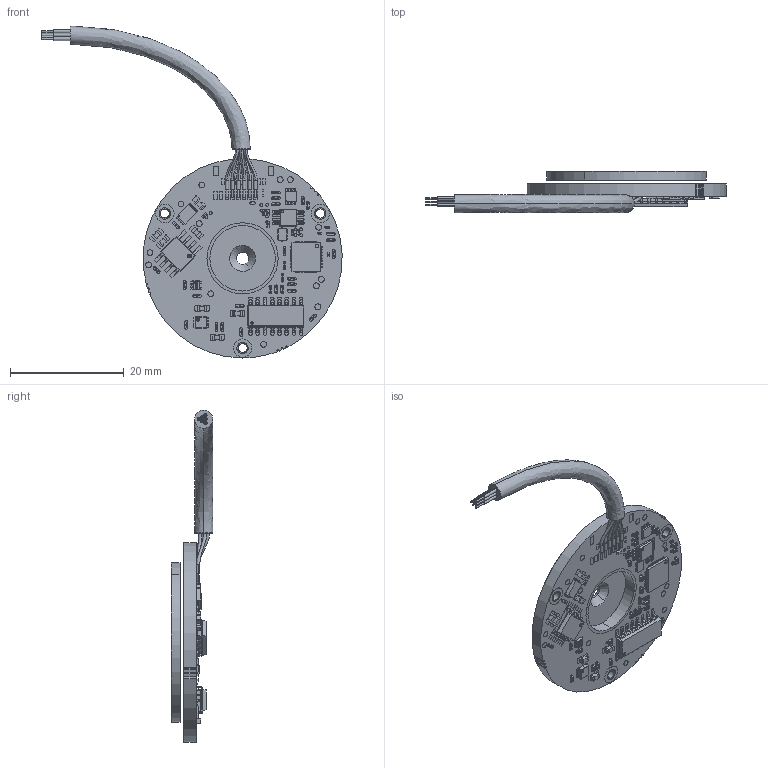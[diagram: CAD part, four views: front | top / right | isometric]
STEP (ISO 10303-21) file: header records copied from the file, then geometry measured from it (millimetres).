
FILE_DESCRIPTION (( 'STEP AP214' ), '1' );
FILE_NAME ('VLP-35 Endshaft rotor.STEP', '2025-10-20T07:14:00', ( '' ), ( '' ), 'SwSTEP 2.0', 'SolidWorks 2022', '' );
FILE_SCHEMA (( 'AUTOMOTIVE_DESIGN' ));
Length unit declared in the file: millimetre
Products named in the file (6): PB-00142-00-STP_Without connector; EA-00142_Without connector; PB-00183_Fine 16 Coarse 15; VLP-35 cable_Flying leads; VLP-35 Endshaft rotor; PB-00142_F 16 C 15
Assembly tree (5 placements, depth 3):
  VLP-35 Endshaft rotor
    EA-00142_Without connector
      PB-00142_F 16 C 15
      PB-00142-00-STP_Without connector
    VLP-35 cable_Flying leads
    PB-00183_Fine 16 Coarse 15
Bounding box: 52.74 x 7.33 x 58.3 mm (x, y, z)
Volume: 3174.6 mm3; surface area: 4676 mm2
Topology: 15 solids, 262 shells, 7055 faces, 17262 edges, 11236 vertices
Faces by surface type: plane 4505, cylinder 1227, bspline 1185, sphere 132, torus 4, cone 2
Entity records: 348616 total; most frequent: CARTESIAN_POINT 109882, ORIENTED_EDGE 34236, DIRECTION 29040, EDGE_CURVE 17134, LINE 12256, VECTOR 12256, VERTEX_POINT 11236, AXIS2_PLACEMENT_3D 8392
